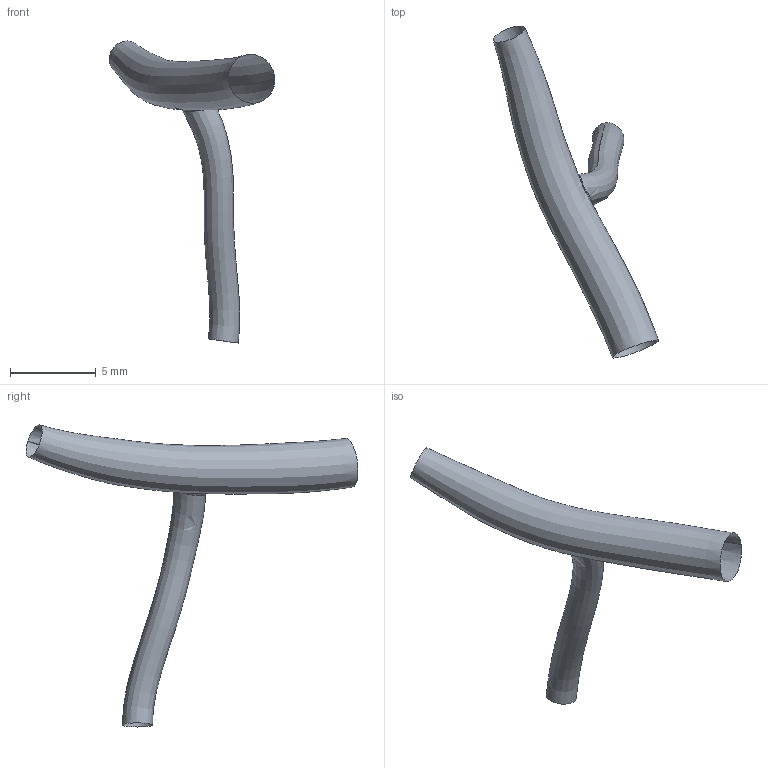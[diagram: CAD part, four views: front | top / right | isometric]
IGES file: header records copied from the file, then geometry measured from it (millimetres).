
Global section: file name: C:\Documents and Settings\Administrator\Desktop\FDA Bifurcation win\RawData_for_IGES\HRCA_Data\20030611.195803\IGES\20030611.195803.RM2.BIFUR.ES.igs; native system: Rhinoceros ( May 19 2006 ); preprocessor: Trout Lake IGES 012 May 19 2006; date: 100728.223243; units: centimetre
Bounding box: 9.63 x 19.31 x 17.57 mm (x, y, z)
Surface area: 248.3 mm2 (no closed solid volume)
Topology: 0 solids, 0 shells, 5 faces, 43 edges, 40 vertices
Faces by surface type: bspline 5
